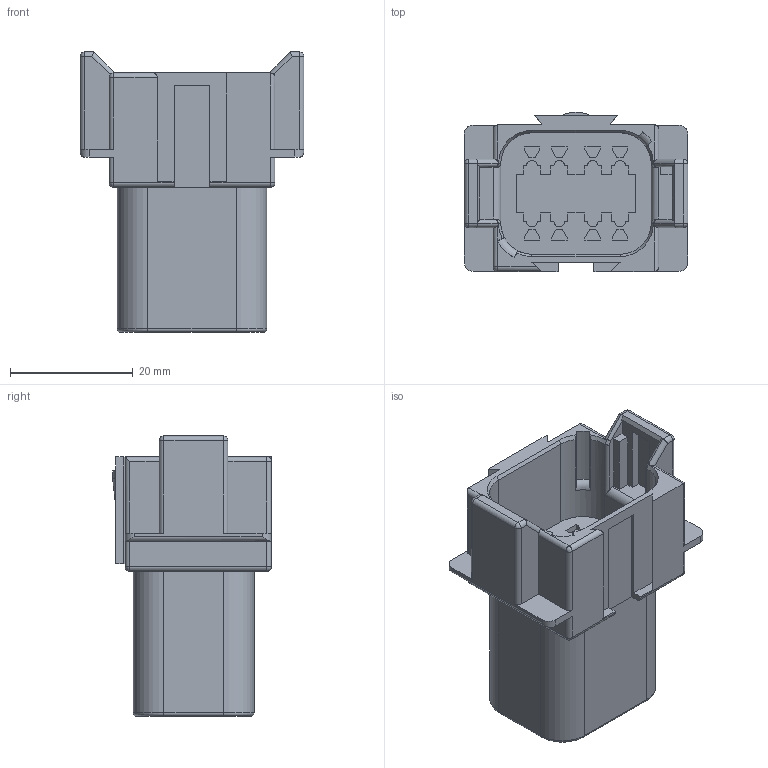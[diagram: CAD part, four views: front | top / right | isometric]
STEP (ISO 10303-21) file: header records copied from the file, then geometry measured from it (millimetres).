
FILE_DESCRIPTION((''),'2;1');
FILE_NAME('C-DT04-08PC-C015','2013-05-13T',('workeradm'),('Tyco Electronics Ltd.'),'PRO/ENGINEER BY PARAMETRIC TECHNOLOGY CORPORATION, 2011490','PRO/ENGINEER BY PARAMETRIC TECHNOLOGY CORPORATION, 2011490','');
FILE_SCHEMA(('AUTOMOTIVE_DESIGN { 1 0 10303 214 1 1 1 1 }'));
Length unit declared in the file: millimetre
Products named in the file (1): C-DT04-08PC-C015
Bounding box: 36.45 x 25.91 x 45.67 mm (x, y, z)
Volume: 16097 mm3; surface area: 7857.6 mm2
Topology: 1 solids, 1 shells, 500 faces, 1302 edges, 838 vertices
Faces by surface type: plane 331, cylinder 111, torus 38, sphere 9, cone 7, bspline 4
Entity records: 20208 total; most frequent: CARTESIAN_POINT 3660, ORIENTED_EDGE 2604, DIRECTION 2464, PRESENTATION_STYLE_ASSIGNMENT 1303, STYLED_ITEM 1303, CURVE_STYLE 1302, EDGE_CURVE 1302, VECTOR 978
